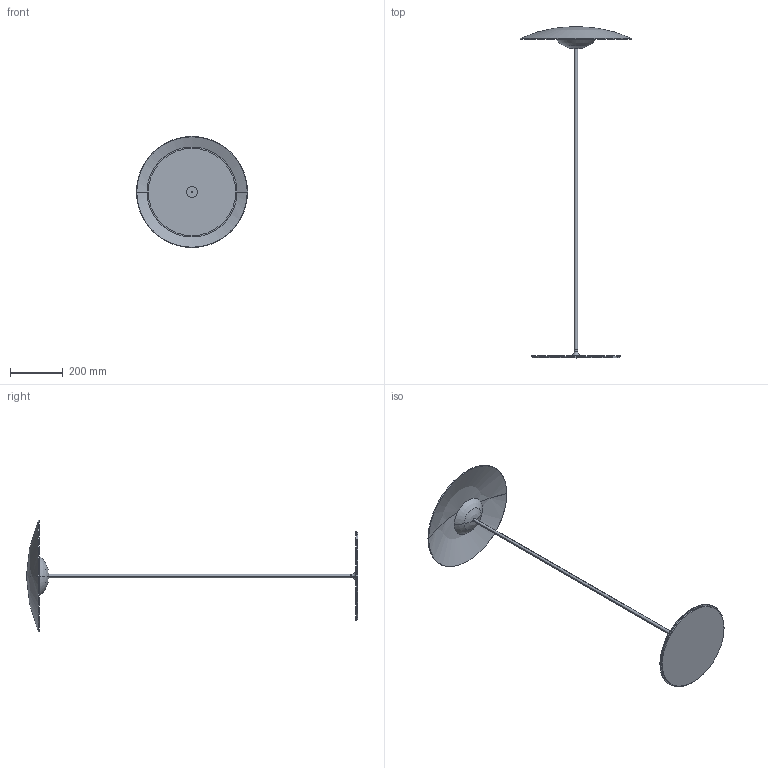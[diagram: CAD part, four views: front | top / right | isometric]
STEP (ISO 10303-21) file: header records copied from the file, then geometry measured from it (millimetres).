
FILE_DESCRIPTION((''),'2;1');
FILE_NAME('GINGER_P_ASM','2014-07-17T',('oftec'),(''),'PRO/ENGINEER BY PARAMETRIC TECHNOLOGY CORPORATION, 2012130','PRO/ENGINEER BY PARAMETRIC TECHNOLOGY CORPORATION, 2012130','');
FILE_SCHEMA(('CONFIG_CONTROL_DESIGN'));
Length unit declared in the file: millimetre
Products named in the file (10): 662-033; 662-034; 662-017; 662-031; 662-012; 662-014; 662-013; 662-036; PANT_GINGER_42_ASM; GINGER_P_ASM
Assembly tree (9 placements, depth 3):
  GINGER_P_ASM
    662-033
    662-034
    662-017
    662-031
    PANT_GINGER_42_ASM
      662-012
      662-014
      662-013
      662-036
Bounding box: 420 x 1254 x 420 mm (x, y, z)
Volume: 1526777.3 mm3; surface area: 779810.8 mm2
Topology: 8 solids, 8 shells, 62 faces, 124 edges, 74 vertices
Faces by surface type: cylinder 28, plane 14, sphere 10, torus 6, cone 4
Entity records: 1873 total; most frequent: DIRECTION 378, CARTESIAN_POINT 279, ORIENTED_EDGE 240, AXIS2_PLACEMENT_3D 173, EDGE_CURVE 120, CIRCLE 88, VERTEX_POINT 74, EDGE_LOOP 70
